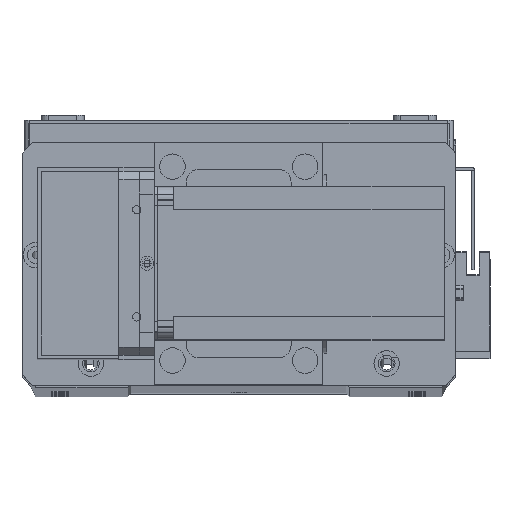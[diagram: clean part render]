
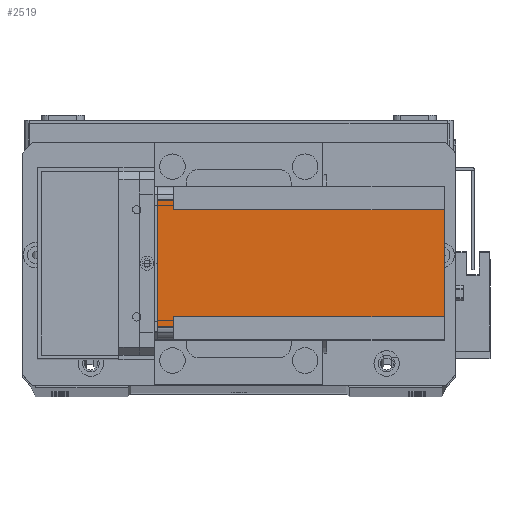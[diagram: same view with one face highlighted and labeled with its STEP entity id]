
A CAD part, top view. The second image highlights one B-rep face of the part: STEP entity #2519.
In plain terms, the highlighted planar face has unit normal (0, 0, 1) as drawn and (-1, 0, 0) by its records, which use the part's own axes.
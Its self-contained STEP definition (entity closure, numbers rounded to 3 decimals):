
#31 = PLANE ( 'NONE',  #32122 ) ;
#263 = VERTEX_POINT ( 'NONE', #18108 ) ;
#318 = CARTESIAN_POINT ( 'NONE',  ( 0., 55., 0. ) ) ;
#1207 = EDGE_CURVE ( 'NONE', #3983, #3214, #10914, .T. ) ;
#1828 = VERTEX_POINT ( 'NONE', #5096 ) ;
#1883 = ORIENTED_EDGE ( 'NONE', *, *, #17975, .T. ) ;
#2211 = LINE ( 'NONE', #4127, #28726 ) ;
#2519 = ADVANCED_FACE ( 'NONE', ( #29791 ), #31, .T. ) ;
#3214 = VERTEX_POINT ( 'NONE', #5602 ) ;
#3335 = DIRECTION ( 'NONE',  ( 0., 0., 1. ) ) ;
#3438 = EDGE_CURVE ( 'NONE', #1828, #6393, #28931, .T. ) ;
#3791 = CARTESIAN_POINT ( 'NONE',  ( 0., 60., -6.5 ) ) ;
#3983 = VERTEX_POINT ( 'NONE', #30164 ) ;
#4127 = CARTESIAN_POINT ( 'NONE',  ( 0., 0., -112.5 ) ) ;
#4521 = ORIENTED_EDGE ( 'NONE', *, *, #24545, .T. ) ;
#4591 = VECTOR ( 'NONE', #28565, 1000. ) ;
#5096 = CARTESIAN_POINT ( 'NONE',  ( 0., 51., -6.5 ) ) ;
#5236 = DIRECTION ( 'NONE',  ( 0., 0., 1. ) ) ;
#5602 = CARTESIAN_POINT ( 'NONE',  ( 0., 9., -112.5 ) ) ;
#6393 = VERTEX_POINT ( 'NONE', #12608 ) ;
#6474 = ORIENTED_EDGE ( 'NONE', *, *, #27651, .F. ) ;
#7738 = DIRECTION ( 'NONE',  ( -1., 0., 0. ) ) ;
#8385 = CARTESIAN_POINT ( 'NONE',  ( 0., 5., -112.5 ) ) ;
#8776 = VERTEX_POINT ( 'NONE', #318 ) ;
#9556 = VECTOR ( 'NONE', #14766, 1000. ) ;
#9790 = CARTESIAN_POINT ( 'NONE',  ( 0., 5., -6.5 ) ) ;
#10153 = DIRECTION ( 'NONE',  ( 0., 0., -1. ) ) ;
#10544 = EDGE_LOOP ( 'NONE', ( #22691, #4521, #30990, #15986, #17088, #6474, #1883, #23662 ) ) ;
#10564 = CARTESIAN_POINT ( 'NONE',  ( 0., 0., -6.5 ) ) ;
#10676 = VERTEX_POINT ( 'NONE', #9790 ) ;
#10864 = VECTOR ( 'NONE', #3335, 1000. ) ;
#10914 = LINE ( 'NONE', #25752, #16928 ) ;
#11012 = LINE ( 'NONE', #33185, #30729 ) ;
#11421 = LINE ( 'NONE', #10564, #4591 ) ;
#11541 = DIRECTION ( 'NONE',  ( 0., 1., 0. ) ) ;
#12186 = CARTESIAN_POINT ( 'NONE',  ( 0., 0., 0. ) ) ;
#12608 = CARTESIAN_POINT ( 'NONE',  ( 0., 55., -6.5 ) ) ;
#14688 = CARTESIAN_POINT ( 'NONE',  ( 0., 51., -112.5 ) ) ;
#14766 = DIRECTION ( 'NONE',  ( 0., -1., 0. ) ) ;
#15986 = ORIENTED_EDGE ( 'NONE', *, *, #18770, .T. ) ;
#16928 = VECTOR ( 'NONE', #23929, 1000. ) ;
#17088 = ORIENTED_EDGE ( 'NONE', *, *, #3438, .F. ) ;
#17975 = EDGE_CURVE ( 'NONE', #31608, #3214, #2211, .T. ) ;
#18108 = CARTESIAN_POINT ( 'NONE',  ( 0., 5., 0. ) ) ;
#18770 = EDGE_CURVE ( 'NONE', #8776, #6393, #11012, .T. ) ;
#20424 = CARTESIAN_POINT ( 'NONE',  ( 0., 0., -112.5 ) ) ;
#22691 = ORIENTED_EDGE ( 'NONE', *, *, #29040, .F. ) ;
#23066 = EDGE_CURVE ( 'NONE', #8776, #263, #29260, .T. ) ;
#23662 = ORIENTED_EDGE ( 'NONE', *, *, #1207, .F. ) ;
#23914 = VECTOR ( 'NONE', #5236, 1000. ) ;
#23929 = DIRECTION ( 'NONE',  ( 0., 0., -1. ) ) ;
#24545 = EDGE_CURVE ( 'NONE', #10676, #263, #32177, .T. ) ;
#25730 = DIRECTION ( 'NONE',  ( 0., -1., 0. ) ) ;
#25752 = CARTESIAN_POINT ( 'NONE',  ( 0., 9., -112.5 ) ) ;
#27286 = DIRECTION ( 'NONE',  ( 0., -1., 0. ) ) ;
#27651 = EDGE_CURVE ( 'NONE', #31608, #1828, #30775, .T. ) ;
#28133 = VECTOR ( 'NONE', #11541, 1000. ) ;
#28285 = CARTESIAN_POINT ( 'NONE',  ( 0., 51., -112.5 ) ) ;
#28565 = DIRECTION ( 'NONE',  ( 0., 1., 0. ) ) ;
#28726 = VECTOR ( 'NONE', #27286, 1000. ) ;
#28931 = LINE ( 'NONE', #3791, #28133 ) ;
#29040 = EDGE_CURVE ( 'NONE', #10676, #3983, #11421, .T. ) ;
#29260 = LINE ( 'NONE', #12186, #9556 ) ;
#29791 = FACE_OUTER_BOUND ( 'NONE', #10544, .T. ) ;
#30164 = CARTESIAN_POINT ( 'NONE',  ( 0., 9., -6.5 ) ) ;
#30729 = VECTOR ( 'NONE', #10153, 1000. ) ;
#30775 = LINE ( 'NONE', #28285, #23914 ) ;
#30990 = ORIENTED_EDGE ( 'NONE', *, *, #23066, .F. ) ;
#31608 = VERTEX_POINT ( 'NONE', #14688 ) ;
#32122 = AXIS2_PLACEMENT_3D ( 'NONE', #20424, #7738, #25730 ) ;
#32177 = LINE ( 'NONE', #8385, #10864 ) ;
#33185 = CARTESIAN_POINT ( 'NONE',  ( 0., 55., -112.5 ) ) ;
